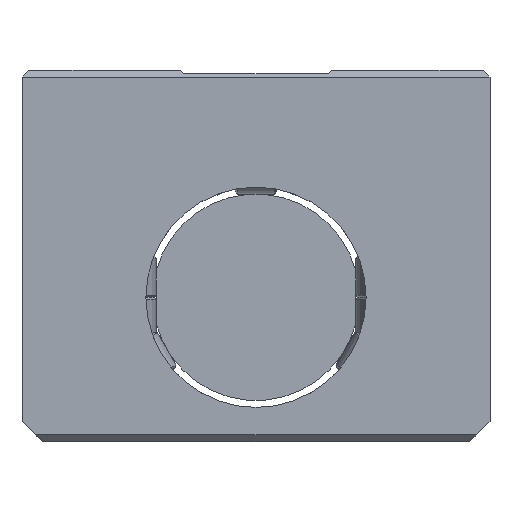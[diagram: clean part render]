
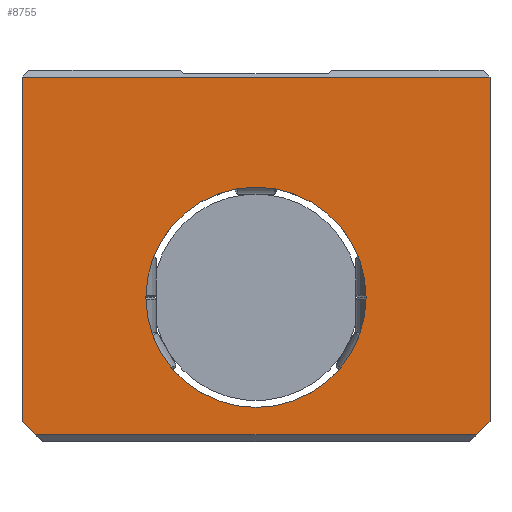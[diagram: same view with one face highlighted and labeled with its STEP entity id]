
A CAD part, left-side view. The second image highlights one B-rep face of the part: STEP entity #8755.
In plain terms, the highlighted planar face has unit normal (-1, 0, 0).
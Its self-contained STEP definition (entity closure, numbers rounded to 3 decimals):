
#7800=CARTESIAN_POINT('',(154.15,-34.0,32.0));
#7801=VERTEX_POINT('',#7800);
#7810=CARTESIAN_POINT('',(154.15,-34.0,-18.));
#7811=VERTEX_POINT('',#7810);
#7812=CARTESIAN_POINT('',(154.15,-34.0,32.0));
#7813=DIRECTION('',(0.0,0.0,-1.0));
#7814=VECTOR('',#7813,50.);
#7815=LINE('',#7812,#7814);
#7816=EDGE_CURVE('',#7801,#7811,#7815,.T.);
#8536=CARTESIAN_POINT('',(154.15,34.0,32.0));
#8537=VERTEX_POINT('',#8536);
#8544=CARTESIAN_POINT('',(154.15,34.0,32.0));
#8545=DIRECTION('',(0.0,-1.0,0.0));
#8546=VECTOR('',#8545,68.0);
#8547=LINE('',#8544,#8546);
#8548=EDGE_CURVE('',#8537,#7801,#8547,.T.);
#8677=CARTESIAN_POINT('',(154.15,-32.,-20.));
#8678=VERTEX_POINT('',#8677);
#8679=CARTESIAN_POINT('',(154.15,-34.0,-18.));
#8680=DIRECTION('',(0.0,0.707,-0.707));
#8681=VECTOR('',#8680,2.828);
#8682=LINE('',#8679,#8681);
#8683=EDGE_CURVE('',#7811,#8678,#8682,.T.);
#8700=CARTESIAN_POINT('',(154.15,32.,-20.));
#8701=VERTEX_POINT('',#8700);
#8710=CARTESIAN_POINT('',(154.15,-32.,-20.));
#8711=DIRECTION('',(0.0,1.0,0.0));
#8712=VECTOR('',#8711,64.);
#8713=LINE('',#8710,#8712);
#8714=EDGE_CURVE('',#8678,#8701,#8713,.T.);
#8719=CARTESIAN_POINT('',(154.15,-22.5,32.75));
#8720=DIRECTION('',(1.0,0.0,0.0));
#8721=DIRECTION('',(0.0,0.0,-1.0));
#8722=AXIS2_PLACEMENT_3D('',#8719,#8720,#8721);
#8723=PLANE('',#8722);
#8724=ORIENTED_EDGE('',*,*,#8714,.F.);
#8725=ORIENTED_EDGE('',*,*,#8683,.F.);
#8726=ORIENTED_EDGE('',*,*,#7816,.F.);
#8727=ORIENTED_EDGE('',*,*,#8548,.F.);
#8728=CARTESIAN_POINT('',(154.15,34.0,-18.));
#8729=VERTEX_POINT('',#8728);
#8730=CARTESIAN_POINT('',(154.15,34.0,-18.));
#8731=DIRECTION('',(0.0,0.0,1.0));
#8732=VECTOR('',#8731,50.);
#8733=LINE('',#8730,#8732);
#8734=EDGE_CURVE('',#8729,#8537,#8733,.T.);
#8735=ORIENTED_EDGE('',*,*,#8734,.F.);
#8736=CARTESIAN_POINT('',(154.15,32.,-20.));
#8737=DIRECTION('',(0.0,0.707,0.707));
#8738=VECTOR('',#8737,2.828);
#8739=LINE('',#8736,#8738);
#8740=EDGE_CURVE('',#8701,#8729,#8739,.T.);
#8741=ORIENTED_EDGE('',*,*,#8740,.F.);
#8742=EDGE_LOOP('',(#8724,#8725,#8726,#8727,#8735,#8741));
#8743=FACE_OUTER_BOUND('',#8742,.T.);
#8744=CARTESIAN_POINT('',(154.15,16.0,0.));
#8745=VERTEX_POINT('',#8744);
#8746=CARTESIAN_POINT('',(154.15,0.0,0.0));
#8747=DIRECTION('',(1.0,0.0,0.0));
#8748=DIRECTION('',(0.0,-1.0,0.0));
#8749=AXIS2_PLACEMENT_3D('',#8746,#8747,#8748);
#8750=CIRCLE('',#8749,16.0);
#8751=EDGE_CURVE('',#8745,#8745,#8750,.T.);
#8752=ORIENTED_EDGE('',*,*,#8751,.T.);
#8753=EDGE_LOOP('',(#8752));
#8754=FACE_BOUND('',#8753,.T.);
#8755=ADVANCED_FACE('',(#8743,#8754),#8723,.F.);
